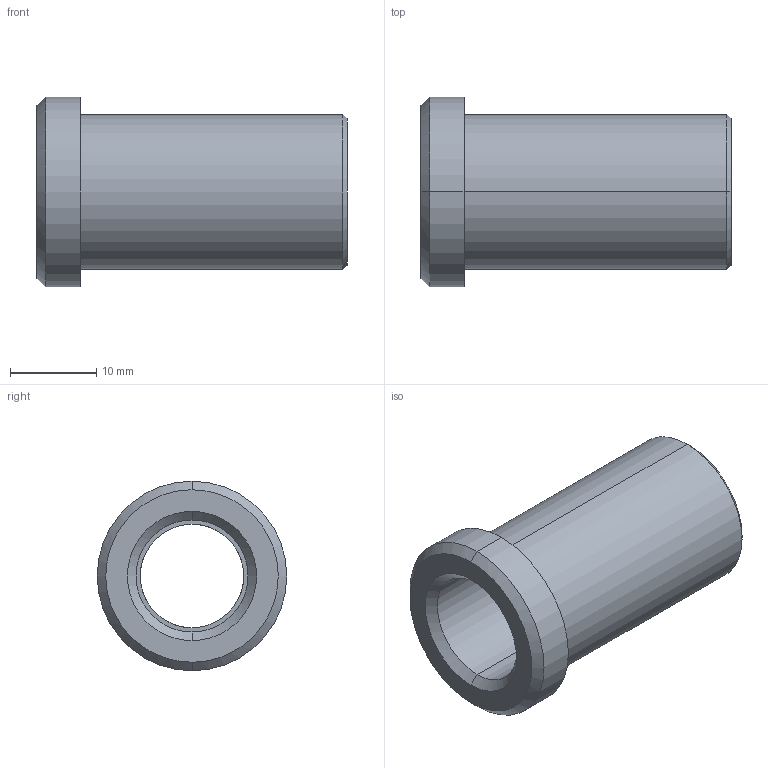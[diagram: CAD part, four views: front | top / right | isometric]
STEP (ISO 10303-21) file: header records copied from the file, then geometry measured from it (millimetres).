
FILE_DESCRIPTION(('CATIA V5 STEP Exchange'),'2;1');
FILE_NAME('C:\Users\Utente\Desktop\IO LAVORO\3D X SITO CF\X SITO\PLASTICA\353\353-12X36.stp','2021-04-21T12:21:33+00:00',('none'),('none'),'CATIA Version 5 Release 20 GA (IN-10)','CATIA V5 STEP AP203','none');
FILE_SCHEMA(('CONFIG_CONTROL_DESIGN'));
Length unit declared in the file: millimetre
Products named in the file (1): 353-12X36
Bounding box: 36 x 22 x 22 mm (x, y, z)
Volume: 5411.8 mm3; surface area: 3930.5 mm2
Topology: 1 solids, 1 shells, 20 faces, 64 edges, 48 vertices
Faces by surface type: cylinder 8, cone 6, plane 4, torus 2
Entity records: 900 total; most frequent: CARTESIAN_POINT 295, ORIENTED_EDGE 128, DIRECTION 92, EDGE_CURVE 64, AXIS2_PLACEMENT_3D 59, VERTEX_POINT 48, CIRCLE 38, EDGE_LOOP 24
